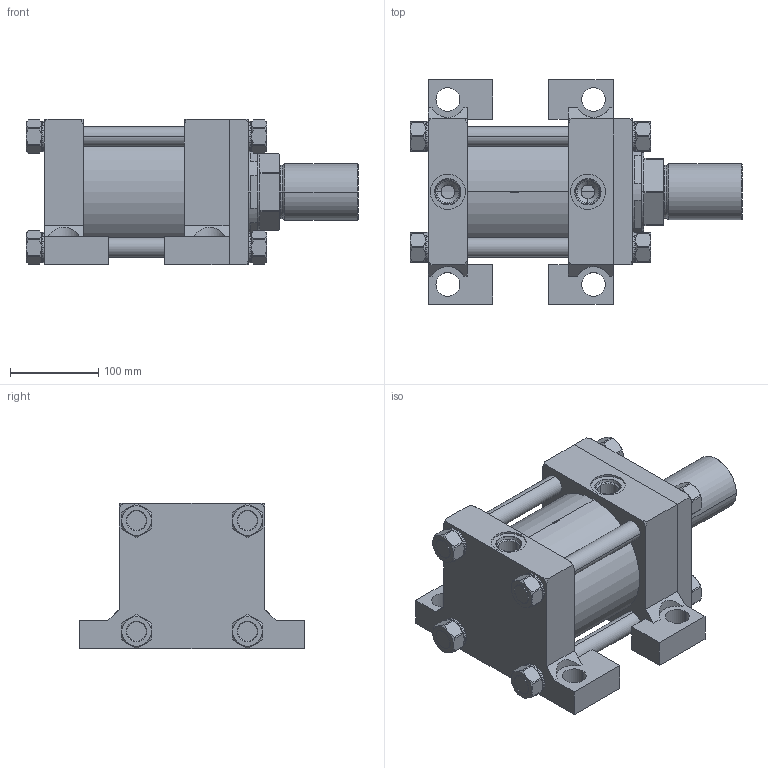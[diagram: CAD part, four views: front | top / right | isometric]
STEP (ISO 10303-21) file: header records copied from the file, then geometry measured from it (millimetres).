
FILE_DESCRIPTION (( 'STEP AP214' ), '1' );
FILE_NAME ('5.00C2HHNAT124A2.000.step', '2026-03-26T21:13:01', ( '' ), ( '' ), 'SwSTEP 2.0', 'SolidWorks 2023', '' );
FILE_SCHEMA (( 'AUTOMOTIVE_DESIGN' ));
Length unit declared in the file: inch
Products named in the file (1): 5.00C2HHNAT124A2.000
Bounding box: 376.24 x 254 x 165.1 mm (x, y, z)
Volume: 5687417.9 mm3; surface area: 746002.9 mm2
Topology: 44 solids, 44 shells, 1217 faces, 3139 edges, 2018 vertices
Faces by surface type: plane 795, cylinder 221, cone 163, bspline 30, torus 8
Entity records: 55236 total; most frequent: CARTESIAN_POINT 11053, ORIENTED_EDGE 6278, DIRECTION 5157, EDGE_CURVE 3139, VERTEX_POINT 2018, AXIS2_PLACEMENT_3D 1750, VECTOR 1657, LINE 1657
